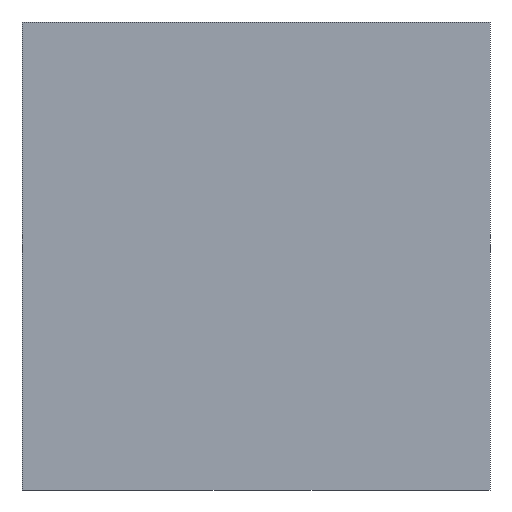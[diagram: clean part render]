
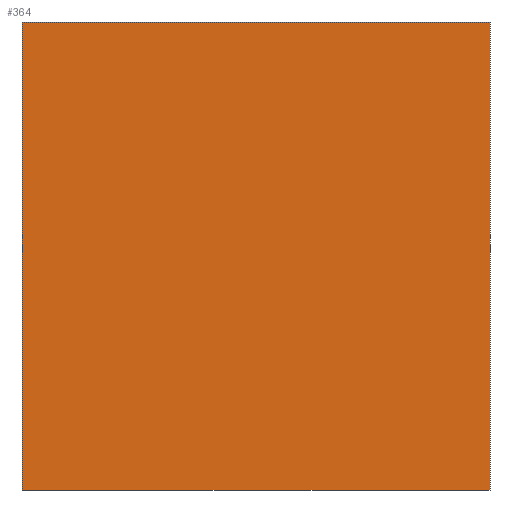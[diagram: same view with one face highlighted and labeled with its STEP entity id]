
A CAD part, front view. The second image highlights one B-rep face of the part: STEP entity #364.
In plain terms, the highlighted planar face has unit normal (0, -1, 0).
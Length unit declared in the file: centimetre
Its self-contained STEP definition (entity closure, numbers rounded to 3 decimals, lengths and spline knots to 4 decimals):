
#2 = VECTOR ( 'NONE', #232, 100. ) ;
#11 = ORIENTED_EDGE ( 'NONE', *, *, #293, .T. ) ;
#14 = DIRECTION ( 'NONE',  ( 1., 0., 0. ) ) ;
#30 = CARTESIAN_POINT ( 'NONE',  ( 0., 0., 1000. ) ) ;
#40 = EDGE_CURVE ( 'NONE', #277, #217, #138, .T. ) ;
#44 = DIRECTION ( 'NONE',  ( 0., 1., 0. ) ) ;
#70 = CARTESIAN_POINT ( 'NONE',  ( 1000., 0., 1000. ) ) ;
#73 = CARTESIAN_POINT ( 'NONE',  ( 1000., 0., 1000. ) ) ;
#87 = ORIENTED_EDGE ( 'NONE', *, *, #40, .T. ) ;
#98 = DIRECTION ( 'NONE',  ( 0., 0., 1. ) ) ;
#136 = AXIS2_PLACEMENT_3D ( 'NONE', #242, #44, #98 ) ;
#138 = LINE ( 'NONE', #30, #180 ) ;
#148 = CARTESIAN_POINT ( 'NONE',  ( 0., 0., 0. ) ) ;
#155 = VECTOR ( 'NONE', #14, 100. ) ;
#165 = ORIENTED_EDGE ( 'NONE', *, *, #178, .F. ) ;
#174 = LINE ( 'NONE', #290, #2 ) ;
#178 = EDGE_CURVE ( 'NONE', #333, #289, #335, .T. ) ;
#180 = VECTOR ( 'NONE', #218, 100. ) ;
#201 = EDGE_LOOP ( 'NONE', ( #11, #165, #252, #87 ) ) ;
#216 = EDGE_CURVE ( 'NONE', #277, #333, #348, .T. ) ;
#217 = VERTEX_POINT ( 'NONE', #148 ) ;
#218 = DIRECTION ( 'NONE',  ( 0., 0., -1. ) ) ;
#230 = CARTESIAN_POINT ( 'NONE',  ( 0., 0., 1000. ) ) ;
#232 = DIRECTION ( 'NONE',  ( 1., 0., 0. ) ) ;
#239 = FACE_OUTER_BOUND ( 'NONE', #201, .T. ) ;
#242 = CARTESIAN_POINT ( 'NONE',  ( 0., 0., 1000. ) ) ;
#252 = ORIENTED_EDGE ( 'NONE', *, *, #216, .F. ) ;
#271 = PLANE ( 'NONE',  #136 ) ;
#277 = VERTEX_POINT ( 'NONE', #230 ) ;
#283 = DIRECTION ( 'NONE',  ( 0., 0., -1. ) ) ;
#289 = VERTEX_POINT ( 'NONE', #350 ) ;
#290 = CARTESIAN_POINT ( 'NONE',  ( 0., 0., 0. ) ) ;
#293 = EDGE_CURVE ( 'NONE', #217, #289, #174, .T. ) ;
#333 = VERTEX_POINT ( 'NONE', #70 ) ;
#335 = LINE ( 'NONE', #73, #339 ) ;
#339 = VECTOR ( 'NONE', #283, 100. ) ;
#348 = LINE ( 'NONE', #354, #155 ) ;
#350 = CARTESIAN_POINT ( 'NONE',  ( 1000., 0., 0. ) ) ;
#354 = CARTESIAN_POINT ( 'NONE',  ( 0., 0., 1000. ) ) ;
#364 = ADVANCED_FACE ( 'NONE', ( #239 ), #271, .F. ) ;
